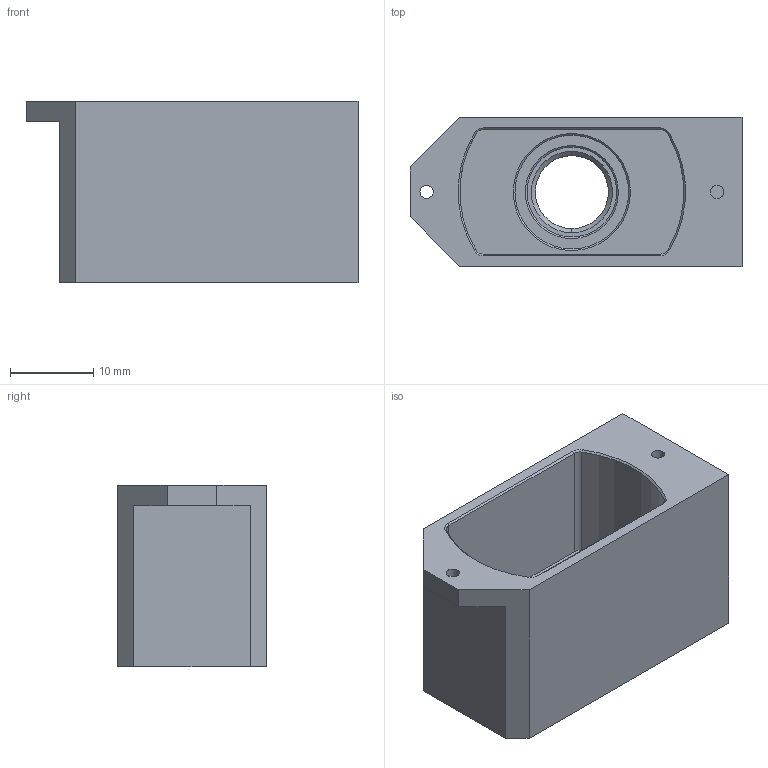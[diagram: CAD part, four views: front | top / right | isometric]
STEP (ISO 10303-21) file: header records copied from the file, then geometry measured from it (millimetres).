
FILE_DESCRIPTION(('CATIA V5 STEP Exchange','CAx-IF Rec.Pracs.--- Model Styling and Organization---1.4--- 2014-01-23','CAx-IF Rec.Pracs.---3D Tessellated Data Validation Properties---0.5---2014-09-14'),'2;1');
FILE_NAME('C:\Users\IS33\Desktop\220112移動データ\手配用データ\DT341M516-00-.stp','2022-01-13T09:07:04+00:00',('none'),('none'),'CATIA Version 5-6 Release 2019 SP3','CATIA V5 STEP AP242 v1','none');
FILE_SCHEMA(('AP242_MANAGED_MODEL_BASED_3D_ENGINEERING_MIM_LF {1 0 10303 442 1 1 4}'));
Length unit declared in the file: millimetre
Products named in the file (1): BARREL_APD_3-3
Bounding box: 40 x 18 x 21.92 mm (x, y, z)
Volume: 7643.8 mm3; surface area: 5204.1 mm2
Topology: 1 solids, 1 shells, 81 faces, 184 edges, 118 vertices
Faces by surface type: cylinder 38, plane 31, cone 12
Entity records: 2105 total; most frequent: ORIENTED_EDGE 368, CARTESIAN_POINT 358, DIRECTION 294, EDGE_CURVE 184, AXIS2_PLACEMENT_3D 144, VERTEX_POINT 118, EDGE_LOOP 98, VECTOR 96
